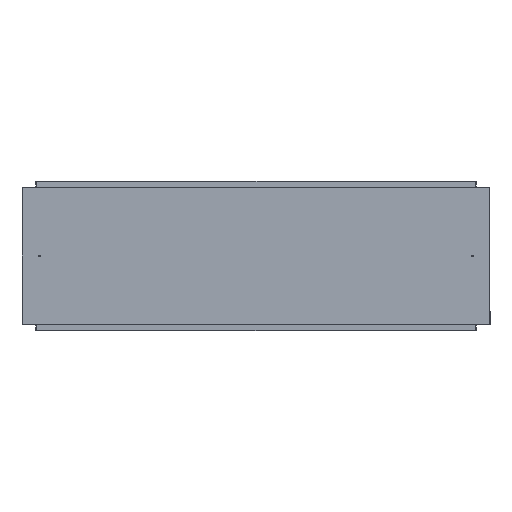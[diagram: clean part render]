
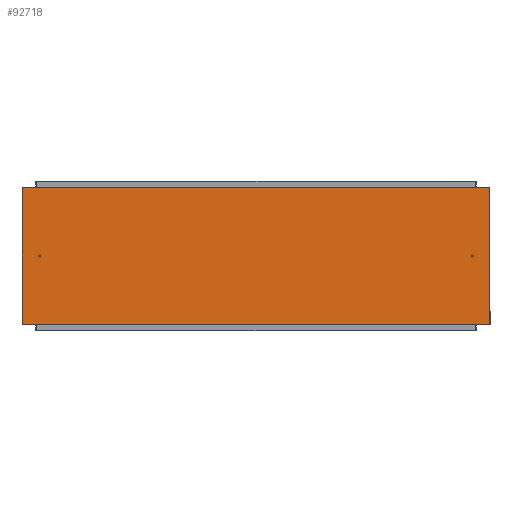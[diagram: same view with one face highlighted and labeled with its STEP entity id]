
A CAD part, left-side view. The second image highlights one B-rep face of the part: STEP entity #92718.
In plain terms, the highlighted planar face has unit normal (-1, 0, 0) as drawn and (0, 0, -1) by its records, which use the part's own axes.
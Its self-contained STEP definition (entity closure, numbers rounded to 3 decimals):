
#267 = CARTESIAN_POINT ( 'NONE',  ( -233.49, 798.5, 0. ) ) ;
#823 = DIRECTION ( 'NONE',  ( 0., 0., 1. ) ) ;
#1438 = DIRECTION ( 'NONE',  ( 0., 1., 0. ) ) ;
#1745 = VECTOR ( 'NONE', #1438, 1000. ) ;
#1910 = CARTESIAN_POINT ( 'NONE',  ( -233.49, -798.5, 0. ) ) ;
#5978 = CARTESIAN_POINT ( 'NONE',  ( 233.49, 798.5, 0. ) ) ;
#6457 = ORIENTED_EDGE ( 'NONE', *, *, #20951, .F. ) ;
#7742 = VERTEX_POINT ( 'NONE', #97455 ) ;
#9589 = EDGE_CURVE ( 'NONE', #47702, #45899, #19060, .T. ) ;
#10517 = AXIS2_PLACEMENT_3D ( 'NONE', #1910, #823, #66462 ) ;
#11419 = LINE ( 'NONE', #42619, #85903 ) ;
#18380 = LINE ( 'NONE', #66547, #1745 ) ;
#19060 = LINE ( 'NONE', #52421, #44673 ) ;
#20951 = EDGE_CURVE ( 'NONE', #45899, #7742, #28300, .T. ) ;
#28300 = LINE ( 'NONE', #86809, #65656 ) ;
#33089 = FACE_OUTER_BOUND ( 'NONE', #78041, .T. ) ;
#34995 = CARTESIAN_POINT ( 'NONE',  ( -233.49, -798.5, 0. ) ) ;
#35017 = EDGE_CURVE ( 'NONE', #99028, #47702, #11419, .T. ) ;
#35500 = DIRECTION ( 'NONE',  ( -1., 0., 0. ) ) ;
#42372 = PLANE ( 'NONE',  #10517 ) ;
#42619 = CARTESIAN_POINT ( 'NONE',  ( -233.49, 798.5, 0. ) ) ;
#44218 = ORIENTED_EDGE ( 'NONE', *, *, #55415, .F. ) ;
#44673 = VECTOR ( 'NONE', #46355, 1000. ) ;
#45899 = VERTEX_POINT ( 'NONE', #34995 ) ;
#46355 = DIRECTION ( 'NONE',  ( 0., -1., 0. ) ) ;
#47702 = VERTEX_POINT ( 'NONE', #267 ) ;
#52421 = CARTESIAN_POINT ( 'NONE',  ( -233.49, 798.5, 0. ) ) ;
#52672 = ORIENTED_EDGE ( 'NONE', *, *, #35017, .F. ) ;
#55415 = EDGE_CURVE ( 'NONE', #7742, #99028, #18380, .T. ) ;
#62197 = DIRECTION ( 'NONE',  ( 1., 0., 0. ) ) ;
#65656 = VECTOR ( 'NONE', #62197, 1000. ) ;
#66462 = DIRECTION ( 'NONE',  ( 1., 0., 0. ) ) ;
#66547 = CARTESIAN_POINT ( 'NONE',  ( 233.49, 798.5, 0. ) ) ;
#78041 = EDGE_LOOP ( 'NONE', ( #78568, #52672, #44218, #6457 ) ) ;
#78568 = ORIENTED_EDGE ( 'NONE', *, *, #9589, .F. ) ;
#85903 = VECTOR ( 'NONE', #35500, 1000. ) ;
#86809 = CARTESIAN_POINT ( 'NONE',  ( -233.49, -798.5, 0. ) ) ;
#92718 = ADVANCED_FACE ( 'NONE', ( #33089 ), #42372, .F. ) ;
#97455 = CARTESIAN_POINT ( 'NONE',  ( 233.49, -798.5, 0. ) ) ;
#99028 = VERTEX_POINT ( 'NONE', #5978 ) ;
